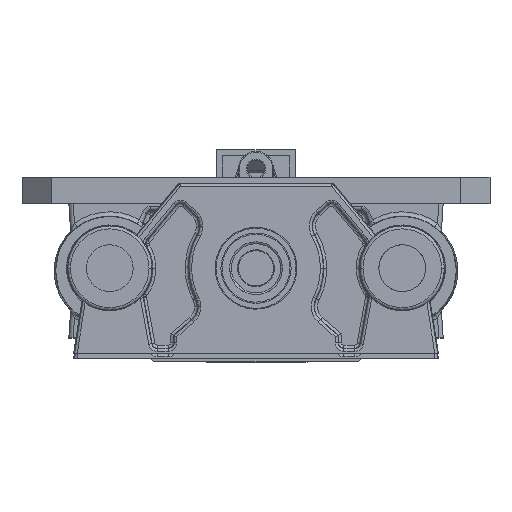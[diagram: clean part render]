
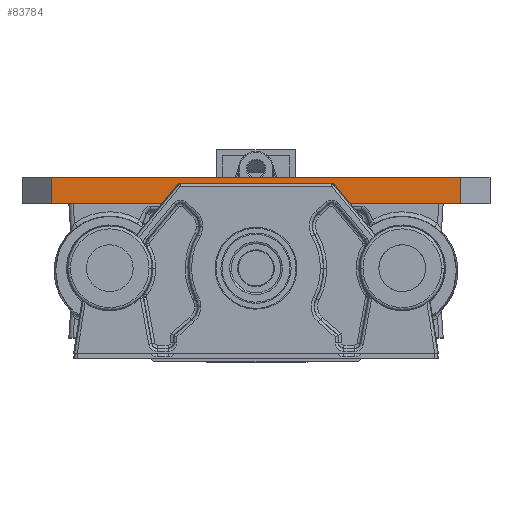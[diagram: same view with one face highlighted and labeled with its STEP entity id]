
A CAD part, top view. The second image highlights one B-rep face of the part: STEP entity #83784.
In plain terms, the highlighted planar face has unit normal (0, 0, 1) as drawn and (0, 1, 0) by its records, which use the part's own axes.
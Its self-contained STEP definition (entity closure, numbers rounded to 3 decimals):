
#230 = ORIENTED_EDGE ( 'NONE', *, *, #63422, .T. ) ;
#1736 = ORIENTED_EDGE ( 'NONE', *, *, #44114, .T. ) ;
#2693 = CARTESIAN_POINT ( 'NONE',  ( 70., 50., 4.5 ) ) ;
#7504 = FACE_OUTER_BOUND ( 'NONE', #100531, .T. ) ;
#8319 = CARTESIAN_POINT ( 'NONE',  ( -70., 50., 4.5 ) ) ;
#8636 = VECTOR ( 'NONE', #70674, 1000. ) ;
#9442 = DIRECTION ( 'NONE',  ( 0., 0., 1. ) ) ;
#11052 = DIRECTION ( 'NONE',  ( 0., 0., -1. ) ) ;
#13884 = CARTESIAN_POINT ( 'NONE',  ( -70., 50., 4.5 ) ) ;
#17800 = CARTESIAN_POINT ( 'NONE',  ( 70., 50., 4.5 ) ) ;
#24296 = DIRECTION ( 'NONE',  ( 0., -1., 0. ) ) ;
#27163 = CARTESIAN_POINT ( 'NONE',  ( 70., 50., -4.5 ) ) ;
#28102 = CARTESIAN_POINT ( 'NONE',  ( 80., 50., -4.5 ) ) ;
#33246 = PLANE ( 'NONE',  #55394 ) ;
#35714 = LINE ( 'NONE', #8319, #54170 ) ;
#36347 = CARTESIAN_POINT ( 'NONE',  ( -70., 50., -4.5 ) ) ;
#41756 = VERTEX_POINT ( 'NONE', #13884 ) ;
#44114 = EDGE_CURVE ( 'NONE', #78607, #76656, #87483, .T. ) ;
#46891 = EDGE_CURVE ( 'NONE', #76656, #41756, #35714, .T. ) ;
#50598 = CARTESIAN_POINT ( 'NONE',  ( 80., 50., 4.5 ) ) ;
#50971 = LINE ( 'NONE', #92970, #85606 ) ;
#54170 = VECTOR ( 'NONE', #9442, 1000. ) ;
#55394 = AXIS2_PLACEMENT_3D ( 'NONE', #50598, #24296, #58441 ) ;
#56100 = VERTEX_POINT ( 'NONE', #2693 ) ;
#58441 = DIRECTION ( 'NONE',  ( 1., 0., 0. ) ) ;
#59926 = ORIENTED_EDGE ( 'NONE', *, *, #46891, .T. ) ;
#63422 = EDGE_CURVE ( 'NONE', #56100, #78607, #96125, .T. ) ;
#70674 = DIRECTION ( 'NONE',  ( -1., 0., 0. ) ) ;
#70746 = ORIENTED_EDGE ( 'NONE', *, *, #99567, .F. ) ;
#72347 = VECTOR ( 'NONE', #11052, 1000. ) ;
#76656 = VERTEX_POINT ( 'NONE', #36347 ) ;
#78607 = VERTEX_POINT ( 'NONE', #27163 ) ;
#83784 = ADVANCED_FACE ( 'NONE', ( #7504 ), #33246, .F. ) ;
#85606 = VECTOR ( 'NONE', #93534, 1000. ) ;
#87483 = LINE ( 'NONE', #28102, #8636 ) ;
#92970 = CARTESIAN_POINT ( 'NONE',  ( 80., 50., 4.5 ) ) ;
#93534 = DIRECTION ( 'NONE',  ( -1., 0., 0. ) ) ;
#96125 = LINE ( 'NONE', #17800, #72347 ) ;
#99567 = EDGE_CURVE ( 'NONE', #56100, #41756, #50971, .T. ) ;
#100531 = EDGE_LOOP ( 'NONE', ( #70746, #230, #1736, #59926 ) ) ;
